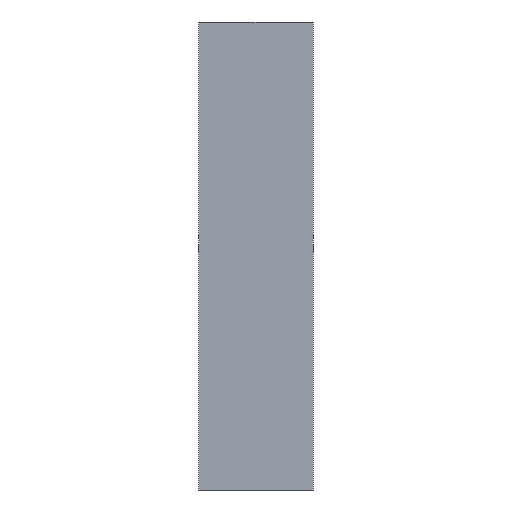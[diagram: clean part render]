
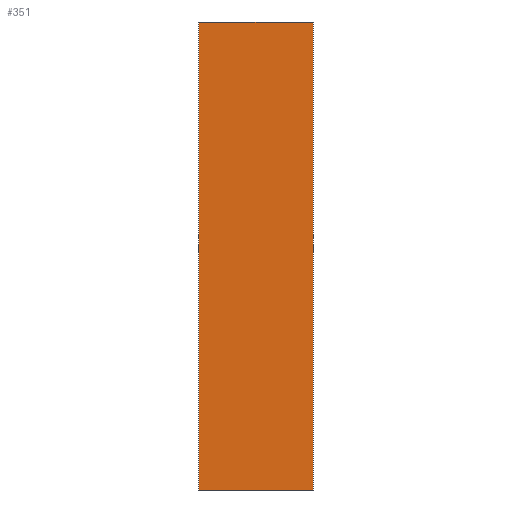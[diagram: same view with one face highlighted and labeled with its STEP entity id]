
A CAD part, left-side view. The second image highlights one B-rep face of the part: STEP entity #351.
In plain terms, the highlighted planar face has unit normal (-1, 0, 0).
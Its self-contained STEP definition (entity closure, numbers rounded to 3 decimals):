
#25=FACE_OUTER_BOUND('',#43,.T.);
#43=EDGE_LOOP('',(#267,#268,#269,#270));
#81=LINE('',#528,#129);
#82=LINE('',#531,#130);
#83=LINE('',#533,#131);
#84=LINE('',#534,#132);
#129=VECTOR('',#431,10.);
#130=VECTOR('',#434,10.);
#131=VECTOR('',#435,10.);
#132=VECTOR('',#436,10.);
#167=VERTEX_POINT('',#524);
#168=VERTEX_POINT('',#526);
#169=VERTEX_POINT('',#530);
#170=VERTEX_POINT('',#532);
#209=EDGE_CURVE('',#167,#168,#81,.T.);
#210=EDGE_CURVE('',#169,#167,#82,.T.);
#211=EDGE_CURVE('',#170,#168,#83,.T.);
#212=EDGE_CURVE('',#169,#170,#84,.T.);
#267=ORIENTED_EDGE('',*,*,#210,.T.);
#268=ORIENTED_EDGE('',*,*,#209,.T.);
#269=ORIENTED_EDGE('',*,*,#211,.F.);
#270=ORIENTED_EDGE('',*,*,#212,.F.);
#333=PLANE('',#371);
#351=ADVANCED_FACE('',(#25),#333,.T.);
#371=AXIS2_PLACEMENT_3D('',#529,#432,#433);
#431=DIRECTION('',(0.,0.,1.));
#432=DIRECTION('center_axis',(-1.,0.,0.));
#433=DIRECTION('ref_axis',(0.,-1.,0.));
#434=DIRECTION('',(0.,-1.,0.));
#435=DIRECTION('',(0.,-1.,0.));
#436=DIRECTION('',(0.,0.,1.));
#524=CARTESIAN_POINT('',(0.,0.,0.));
#526=CARTESIAN_POINT('',(0.,0.,180.));
#528=CARTESIAN_POINT('',(0.,0.,0.));
#529=CARTESIAN_POINT('Origin',(0.,44.,0.));
#530=CARTESIAN_POINT('',(0.,44.,0.));
#531=CARTESIAN_POINT('',(0.,44.,0.));
#532=CARTESIAN_POINT('',(0.,44.,180.));
#533=CARTESIAN_POINT('',(0.,44.,180.));
#534=CARTESIAN_POINT('',(0.,44.,0.));
